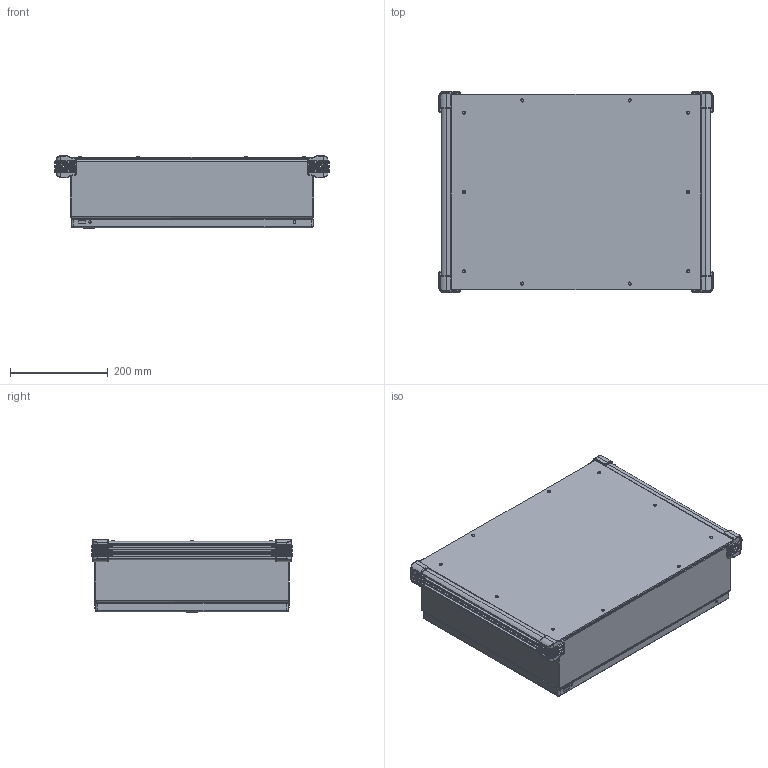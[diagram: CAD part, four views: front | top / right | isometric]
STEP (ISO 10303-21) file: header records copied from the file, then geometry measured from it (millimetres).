
FILE_DESCRIPTION (( 'STEP AP203' ), '1' );
FILE_NAME ('cp405012b.STEP', '2012-06-08T14:58:59', ( 'User' ), ( 'Pentair Inc' ), 'SwSTEP 2.0', 'SolidWorks 2010', '' );
FILE_SCHEMA (( 'CONFIG_CONTROL_DESIGN' ));
Length unit declared in the file: inch
Products named in the file (38): 89061405; 87792578; 87792576; 99416066; 87929507; 87929767; 87929769_Installed on Pin; cp405012b; 89061118; 87789235_default; 99401225_Config-Drawing; 87938519_assy; 87938543_fip; 87938495; 87931362_87931362; 99401225; 87938561_87926013; 87921906_After Weld; 64101001; 64201001; 87541994_Installed Height; 87541995; 64202001; 64210001; 64203001; 87927840_87927840; 87932903; 64138001; 89061092; 87789211; 87541671_87541671; 87789170; 87789150; 87543027; 89076399; 89076193; 89056623; 87789732_ASSEMBLED
Assembly tree (77 placements, depth 4):
  cp405012b
    87789150  x4
    87792576  x6
    87792578  x6
    87789170  x2
    89061092
      87789211
      87541671_87541671  x10
    89076399  x2
      89076193
      89056623
    99416066  x6
    87929507  x2
      87929767
      87929769_Installed on Pin
    89061118
      99401225_Config-Drawing  x3
      87789235_default
    87543027  x2
    87789732_ASSEMBLED
      89061405  x2
    87938519_assy
      87938543_fip
        99401225
        87921906_After Weld  x4
        87938495
        87931362_87931362  x2
        87938561_87926013
      64101001
        87541995
        64210001
        87927840_87927840
        64202001
        64203001
        87541994_Installed Height
        64201001
      87932903  x2
      64138001  x2
Bounding box: 564.31 x 413.87 x 149.3 mm (x, y, z)
Volume: 2263045.6 mm3; surface area: 1886788 mm2
Topology: 72 solids, 72 shells, 4350 faces, 10967 edges, 6746 vertices
Faces by surface type: plane 1777, cylinder 1417, bspline 444, torus 374, cone 286, sphere 52
Entity records: 68453 total; most frequent: CARTESIAN_POINT 20953, ORIENTED_EDGE 9092, DIRECTION 8533, EDGE_CURVE 4546, AXIS2_PLACEMENT_3D 3140, VERTEX_POINT 2812, LINE 2253, VECTOR 2253
